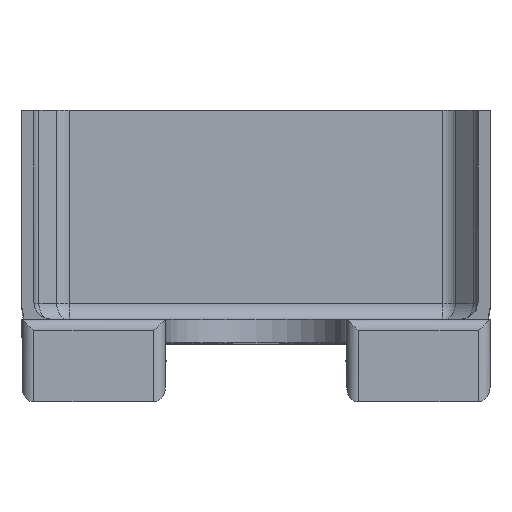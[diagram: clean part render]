
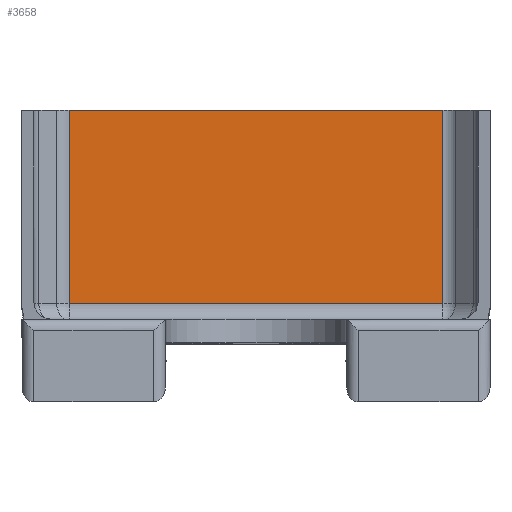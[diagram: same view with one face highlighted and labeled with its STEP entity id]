
A CAD part, top view. The second image highlights one B-rep face of the part: STEP entity #3658.
In plain terms, the highlighted planar face has unit normal (0, 0, 1).
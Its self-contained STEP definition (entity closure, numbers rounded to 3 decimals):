
#7 = DIRECTION ( 'NONE',  ( 0., 1., 0. ) ) ;
#84 = CARTESIAN_POINT ( 'NONE',  ( -15.964, 20., -42.5 ) ) ;
#135 = CARTESIAN_POINT ( 'NONE',  ( 16.586, 115.755, -42.5 ) ) ;
#386 = EDGE_LOOP ( 'NONE', ( #573, #1821, #1449, #3380 ) ) ;
#432 = VECTOR ( 'NONE', #7, 1000. ) ;
#488 = DIRECTION ( 'NONE',  ( -1., 0., 0. ) ) ;
#573 = ORIENTED_EDGE ( 'NONE', *, *, #1491, .T. ) ;
#920 = CARTESIAN_POINT ( 'NONE',  ( 15.964, 20., -42.5 ) ) ;
#1023 = LINE ( 'NONE', #3466, #3301 ) ;
#1226 = EDGE_CURVE ( 'NONE', #2040, #3356, #1805, .T. ) ;
#1257 = CARTESIAN_POINT ( 'NONE',  ( -15.964, 3.5, -42.5 ) ) ;
#1325 = VECTOR ( 'NONE', #488, 1000. ) ;
#1347 = EDGE_CURVE ( 'NONE', #3356, #3463, #3521, .T. ) ;
#1420 = DIRECTION ( 'NONE',  ( -1., 0., 0. ) ) ;
#1449 = ORIENTED_EDGE ( 'NONE', *, *, #1226, .T. ) ;
#1491 = EDGE_CURVE ( 'NONE', #3463, #3462, #1897, .T. ) ;
#1496 = EDGE_CURVE ( 'NONE', #3462, #2040, #1023, .T. ) ;
#1640 = AXIS2_PLACEMENT_3D ( 'NONE', #135, #4052, #1420 ) ;
#1805 = LINE ( 'NONE', #2220, #2162 ) ;
#1821 = ORIENTED_EDGE ( 'NONE', *, *, #1496, .T. ) ;
#1897 = LINE ( 'NONE', #2125, #1325 ) ;
#1975 = CARTESIAN_POINT ( 'NONE',  ( 15.964, 20., -42.5 ) ) ;
#2040 = VERTEX_POINT ( 'NONE', #1257 ) ;
#2044 = PLANE ( 'NONE',  #1640 ) ;
#2125 = CARTESIAN_POINT ( 'NONE',  ( 16.586, 20., -42.5 ) ) ;
#2162 = VECTOR ( 'NONE', #3544, 1000. ) ;
#2220 = CARTESIAN_POINT ( 'NONE',  ( 16.586, 3.5, -42.5 ) ) ;
#2446 = FACE_OUTER_BOUND ( 'NONE', #386, .T. ) ;
#3301 = VECTOR ( 'NONE', #3767, 1000. ) ;
#3356 = VERTEX_POINT ( 'NONE', #3516 ) ;
#3380 = ORIENTED_EDGE ( 'NONE', *, *, #1347, .T. ) ;
#3462 = VERTEX_POINT ( 'NONE', #84 ) ;
#3463 = VERTEX_POINT ( 'NONE', #1975 ) ;
#3466 = CARTESIAN_POINT ( 'NONE',  ( -15.964, 2., -42.5 ) ) ;
#3516 = CARTESIAN_POINT ( 'NONE',  ( 15.964, 3.5, -42.5 ) ) ;
#3521 = LINE ( 'NONE', #920, #432 ) ;
#3544 = DIRECTION ( 'NONE',  ( 1., 0., 0. ) ) ;
#3658 = ADVANCED_FACE ( 'NONE', ( #2446 ), #2044, .F. ) ;
#3767 = DIRECTION ( 'NONE',  ( 0., -1., 0. ) ) ;
#4052 = DIRECTION ( 'NONE',  ( 0., 0., -1. ) ) ;
